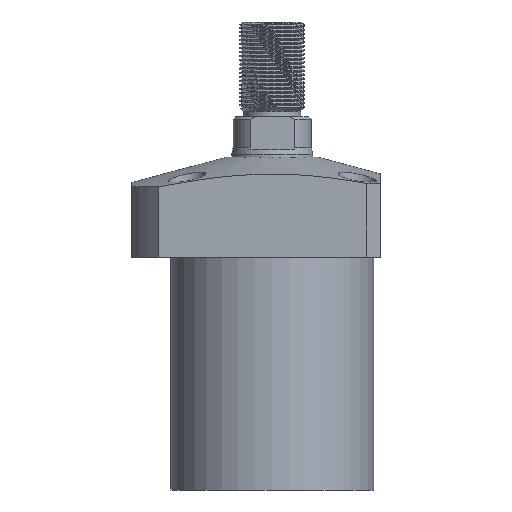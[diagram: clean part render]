
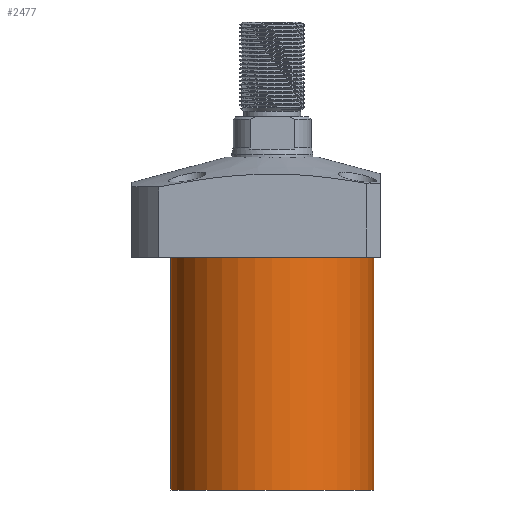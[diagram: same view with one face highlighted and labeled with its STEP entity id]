
A CAD part, front view. The second image highlights one B-rep face of the part: STEP entity #2477.
In plain terms, the highlighted cylindrical face has radius 37.5 mm (diameter 75 mm), a partial arc.
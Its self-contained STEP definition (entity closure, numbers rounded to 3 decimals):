
#7 = EDGE_CURVE ( 'NONE', #2836, #1311, #6466, .T. ) ;
#139 = AXIS2_PLACEMENT_3D ( 'NONE', #2362, #4739, #7298 ) ;
#383 = CARTESIAN_POINT ( 'NONE',  ( 37.5, 0., -104.5 ) ) ;
#1249 = DIRECTION ( 'NONE',  ( 0., 0., -1. ) ) ;
#1311 = VERTEX_POINT ( 'NONE', #4406 ) ;
#1861 = AXIS2_PLACEMENT_3D ( 'NONE', #4543, #2684, #3316 ) ;
#1901 = CIRCLE ( 'NONE', #6532, 37.5 ) ;
#1972 = CARTESIAN_POINT ( 'NONE',  ( -37.5, 0., -104.5 ) ) ;
#2114 = VERTEX_POINT ( 'NONE', #5360 ) ;
#2362 = CARTESIAN_POINT ( 'NONE',  ( 0., 0., -18.5 ) ) ;
#2477 = ADVANCED_FACE ( 'NONE', ( #4712 ), #7445, .T. ) ;
#2684 = DIRECTION ( 'NONE',  ( 0., 0., 1. ) ) ;
#2836 = VERTEX_POINT ( 'NONE', #4178 ) ;
#3198 = ORIENTED_EDGE ( 'NONE', *, *, #7, .F. ) ;
#3316 = DIRECTION ( 'NONE',  ( 1., 0., 0. ) ) ;
#3486 = EDGE_LOOP ( 'NONE', ( #3198, #5036, #6548, #5835 ) ) ;
#3548 = CARTESIAN_POINT ( 'NONE',  ( 37.5, 0., -104.5 ) ) ;
#4178 = CARTESIAN_POINT ( 'NONE',  ( -37.5, 0., -104.5 ) ) ;
#4288 = DIRECTION ( 'NONE',  ( -1., 0., 0. ) ) ;
#4406 = CARTESIAN_POINT ( 'NONE',  ( -37.5, 0., -18.5 ) ) ;
#4444 = VECTOR ( 'NONE', #5743, 1000. ) ;
#4543 = CARTESIAN_POINT ( 'NONE',  ( 0., 0., -104.5 ) ) ;
#4712 = FACE_OUTER_BOUND ( 'NONE', #3486, .T. ) ;
#4739 = DIRECTION ( 'NONE',  ( 0., 0., -1. ) ) ;
#5036 = ORIENTED_EDGE ( 'NONE', *, *, #5762, .F. ) ;
#5360 = CARTESIAN_POINT ( 'NONE',  ( 37.5, 0., -18.5 ) ) ;
#5423 = DIRECTION ( 'NONE',  ( 0., 0., 1. ) ) ;
#5579 = EDGE_CURVE ( 'NONE', #6379, #2114, #6856, .T. ) ;
#5655 = EDGE_CURVE ( 'NONE', #2114, #1311, #7447, .T. ) ;
#5743 = DIRECTION ( 'NONE',  ( 0., 0., 1. ) ) ;
#5762 = EDGE_CURVE ( 'NONE', #6379, #2836, #1901, .T. ) ;
#5835 = ORIENTED_EDGE ( 'NONE', *, *, #5655, .T. ) ;
#6379 = VERTEX_POINT ( 'NONE', #3548 ) ;
#6466 = LINE ( 'NONE', #1972, #4444 ) ;
#6532 = AXIS2_PLACEMENT_3D ( 'NONE', #7980, #1249, #4288 ) ;
#6548 = ORIENTED_EDGE ( 'NONE', *, *, #5579, .T. ) ;
#6856 = LINE ( 'NONE', #383, #7248 ) ;
#7248 = VECTOR ( 'NONE', #5423, 1000. ) ;
#7298 = DIRECTION ( 'NONE',  ( 1., 0., 0. ) ) ;
#7445 = CYLINDRICAL_SURFACE ( 'NONE', #1861, 37.5 ) ;
#7447 = CIRCLE ( 'NONE', #139, 37.5 ) ;
#7980 = CARTESIAN_POINT ( 'NONE',  ( 0., 0., -104.5 ) ) ;
